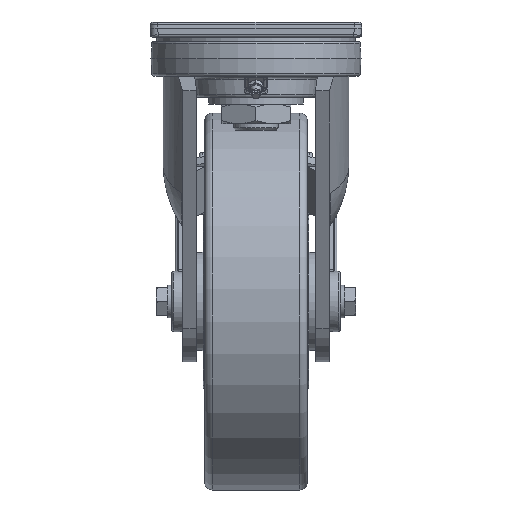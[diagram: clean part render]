
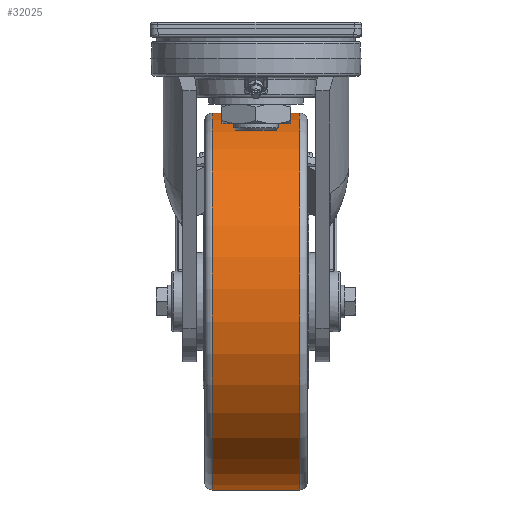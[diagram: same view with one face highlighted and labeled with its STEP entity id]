
A CAD part, left-side view. The second image highlights one B-rep face of the part: STEP entity #32025.
In plain terms, the highlighted cylindrical face has radius 125 mm (diameter 250 mm), a full revolution.
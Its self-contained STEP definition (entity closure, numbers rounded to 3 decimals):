
#4225=LINE('',#56725,#6945);
#6945=VECTOR('',#39285,125.);
#7960=CYLINDRICAL_SURFACE('',#34015,125.);
#9288=FACE_OUTER_BOUND('',#11179,.T.);
#11179=EDGE_LOOP('',(#27271,#27272,#27273,#27274,#27275,#27276,#27277,#27278));
#12275=CIRCLE('',#34012,125.);
#12276=CIRCLE('',#34013,125.);
#12277=CIRCLE('',#34014,125.);
#12278=CIRCLE('',#34016,125.);
#12279=CIRCLE('',#34017,125.);
#12280=CIRCLE('',#34018,125.);
#14648=VERTEX_POINT('',#56716);
#14649=VERTEX_POINT('',#56718);
#14650=VERTEX_POINT('',#56720);
#14651=VERTEX_POINT('',#56724);
#14652=VERTEX_POINT('',#56726);
#14653=VERTEX_POINT('',#56728);
#19019=EDGE_CURVE('',#14648,#14649,#12275,.T.);
#19020=EDGE_CURVE('',#14649,#14650,#12276,.T.);
#19021=EDGE_CURVE('',#14650,#14648,#12277,.T.);
#19022=EDGE_CURVE('',#14649,#14651,#4225,.T.);
#19023=EDGE_CURVE('',#14651,#14652,#12278,.T.);
#19024=EDGE_CURVE('',#14652,#14653,#12279,.T.);
#19025=EDGE_CURVE('',#14653,#14651,#12280,.T.);
#27271=ORIENTED_EDGE('',*,*,#19021,.F.);
#27272=ORIENTED_EDGE('',*,*,#19020,.F.);
#27273=ORIENTED_EDGE('',*,*,#19022,.T.);
#27274=ORIENTED_EDGE('',*,*,#19023,.T.);
#27275=ORIENTED_EDGE('',*,*,#19024,.T.);
#27276=ORIENTED_EDGE('',*,*,#19025,.T.);
#27277=ORIENTED_EDGE('',*,*,#19022,.F.);
#27278=ORIENTED_EDGE('',*,*,#19019,.F.);
#32025=ADVANCED_FACE('',(#9288),#7960,.T.);
#34012=AXIS2_PLACEMENT_3D('',#56719,#39277,#39278);
#34013=AXIS2_PLACEMENT_3D('',#56721,#39279,#39280);
#34014=AXIS2_PLACEMENT_3D('',#56722,#39281,#39282);
#34015=AXIS2_PLACEMENT_3D('',#56723,#39283,#39284);
#34016=AXIS2_PLACEMENT_3D('',#56727,#39286,#39287);
#34017=AXIS2_PLACEMENT_3D('',#56729,#39288,#39289);
#34018=AXIS2_PLACEMENT_3D('',#56730,#39290,#39291);
#39277=DIRECTION('center_axis',(0.,1.,0.));
#39278=DIRECTION('ref_axis',(-0.065,0.,
-0.998));
#39279=DIRECTION('center_axis',(0.,1.,0.));
#39280=DIRECTION('ref_axis',(-0.065,0.,
-0.998));
#39281=DIRECTION('center_axis',(0.,1.,0.));
#39282=DIRECTION('ref_axis',(-0.065,0.,
-0.998));
#39283=DIRECTION('center_axis',(0.,1.,0.));
#39284=DIRECTION('ref_axis',(-0.998,0.,0.065));
#39285=DIRECTION('',(0.,-1.,0.));
#39286=DIRECTION('center_axis',(0.,1.,0.));
#39287=DIRECTION('ref_axis',(-0.065,0.,
-0.998));
#39288=DIRECTION('center_axis',(0.,1.,0.));
#39289=DIRECTION('ref_axis',(-0.065,0.,
-0.998));
#39290=DIRECTION('center_axis',(0.,1.,0.));
#39291=DIRECTION('ref_axis',(-0.065,0.,
-0.998));
#56716=CARTESIAN_POINT('',(83.115,29.,-56.264));
#56718=CARTESIAN_POINT('',(199.736,29.,-189.115));
#56719=CARTESIAN_POINT('Origin',(75.,29.,-181.));
#56720=CARTESIAN_POINT('',(-49.736,29.,-172.885));
#56721=CARTESIAN_POINT('Origin',(75.,29.,-181.));
#56722=CARTESIAN_POINT('Origin',(75.,29.,-181.));
#56723=CARTESIAN_POINT('Origin',(75.,0.,-181.));
#56724=CARTESIAN_POINT('',(199.736,-29.,-189.115));
#56725=CARTESIAN_POINT('',(199.736,0.,-189.115));
#56726=CARTESIAN_POINT('',(-49.736,-29.,-172.885));
#56727=CARTESIAN_POINT('Origin',(75.,-29.,-181.));
#56728=CARTESIAN_POINT('',(83.115,-29.,-56.264));
#56729=CARTESIAN_POINT('Origin',(75.,-29.,-181.));
#56730=CARTESIAN_POINT('Origin',(75.,-29.,-181.));
